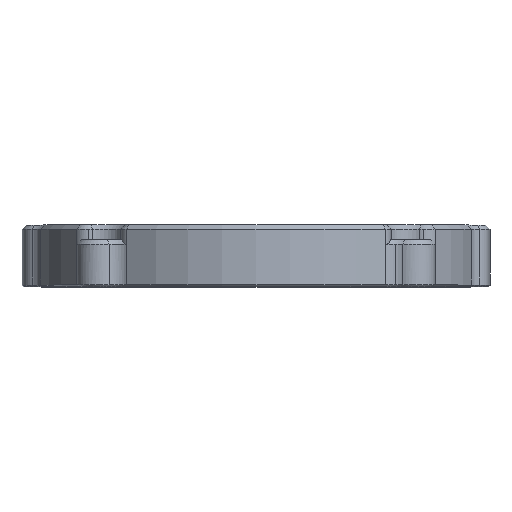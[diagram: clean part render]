
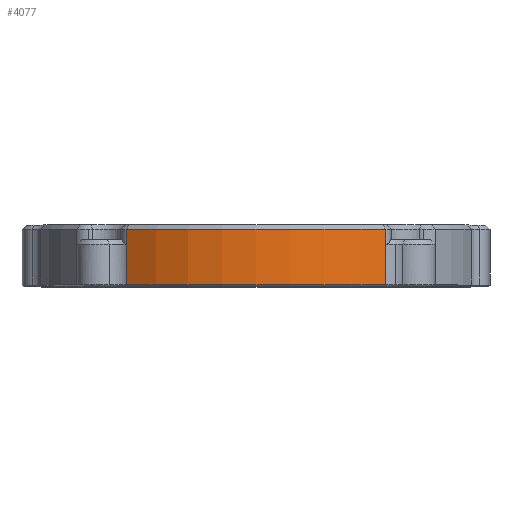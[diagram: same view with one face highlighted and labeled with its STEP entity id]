
A CAD part, top view. The second image highlights one B-rep face of the part: STEP entity #4077.
In plain terms, the highlighted cylindrical face has radius 25 mm (diameter 50 mm), a partial arc.
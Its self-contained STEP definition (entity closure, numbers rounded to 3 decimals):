
#33 = AXIS2_PLACEMENT_3D ( 'NONE', #3022, #5631, #2067 ) ;
#52 = CARTESIAN_POINT ( 'NONE',  ( -14.643, -1.3, 20.263 ) ) ;
#77 = DIRECTION ( 'NONE',  ( 0., 1., 0. ) ) ;
#135 = DIRECTION ( 'NONE',  ( 0., 0., -1. ) ) ;
#232 = LINE ( 'NONE', #2342, #1018 ) ;
#917 = CIRCLE ( 'NONE', #33, 25. ) ;
#1001 = ORIENTED_EDGE ( 'NONE', *, *, #3398, .T. ) ;
#1013 = DIRECTION ( 'NONE',  ( 0., -1., 0. ) ) ;
#1018 = VECTOR ( 'NONE', #4804, 1000. ) ;
#1070 = CARTESIAN_POINT ( 'NONE',  ( 14.643, 5., 20.263 ) ) ;
#1072 = CIRCLE ( 'NONE', #5558, 25. ) ;
#1110 = ORIENTED_EDGE ( 'NONE', *, *, #4836, .T. ) ;
#1149 = CARTESIAN_POINT ( 'NONE',  ( 14.643, 5.5, 20.263 ) ) ;
#1659 = EDGE_CURVE ( 'NONE', #3745, #2155, #917, .T. ) ;
#1701 = CARTESIAN_POINT ( 'NONE',  ( 0., 5.5, 0. ) ) ;
#1779 = CARTESIAN_POINT ( 'NONE',  ( 0., -1.3, 25. ) ) ;
#1861 = EDGE_CURVE ( 'NONE', #4394, #5480, #1072, .T. ) ;
#1891 = DIRECTION ( 'NONE',  ( 0., -1., 0. ) ) ;
#2067 = DIRECTION ( 'NONE',  ( 0., 0., -1. ) ) ;
#2072 = EDGE_CURVE ( 'NONE', #4546, #4394, #4277, .T. ) ;
#2155 = VERTEX_POINT ( 'NONE', #4851 ) ;
#2163 = CARTESIAN_POINT ( 'NONE',  ( 0., -1.3, 0. ) ) ;
#2217 = FACE_OUTER_BOUND ( 'NONE', #3354, .T. ) ;
#2294 = LINE ( 'NONE', #2795, #6773 ) ;
#2342 = CARTESIAN_POINT ( 'NONE',  ( -14.643, 5.5, 20.263 ) ) ;
#2407 = CIRCLE ( 'NONE', #5575, 25. ) ;
#2461 = EDGE_CURVE ( 'NONE', #2155, #4546, #3755, .T. ) ;
#2501 = CARTESIAN_POINT ( 'NONE',  ( 0., 5., 0. ) ) ;
#2687 = VECTOR ( 'NONE', #77, 1000. ) ;
#2795 = CARTESIAN_POINT ( 'NONE',  ( -14.643, 5.5, 20.263 ) ) ;
#3022 = CARTESIAN_POINT ( 'NONE',  ( 0., -1.3, 0. ) ) ;
#3026 = EDGE_CURVE ( 'NONE', #3711, #6457, #232, .T. ) ;
#3354 = EDGE_LOOP ( 'NONE', ( #5338, #1110, #3548, #6715, #3372, #4251, #1001 ) ) ;
#3372 = ORIENTED_EDGE ( 'NONE', *, *, #2072, .T. ) ;
#3398 = EDGE_CURVE ( 'NONE', #5480, #3711, #2294, .T. ) ;
#3548 = ORIENTED_EDGE ( 'NONE', *, *, #1659, .T. ) ;
#3711 = VERTEX_POINT ( 'NONE', #6508 ) ;
#3745 = VERTEX_POINT ( 'NONE', #1779 ) ;
#3755 = LINE ( 'NONE', #1149, #2687 ) ;
#3793 = CARTESIAN_POINT ( 'NONE',  ( 14.643, 3.8, 20.263 ) ) ;
#4076 = DIRECTION ( 'NONE',  ( 0., -1., 0. ) ) ;
#4077 = ADVANCED_FACE ( 'NONE', ( #2217 ), #4295, .T. ) ;
#4114 = DIRECTION ( 'NONE',  ( 0., 0., -1. ) ) ;
#4251 = ORIENTED_EDGE ( 'NONE', *, *, #1861, .T. ) ;
#4277 = LINE ( 'NONE', #3793, #6781 ) ;
#4295 = CYLINDRICAL_SURFACE ( 'NONE', #5676, 25. ) ;
#4394 = VERTEX_POINT ( 'NONE', #1070 ) ;
#4546 = VERTEX_POINT ( 'NONE', #5352 ) ;
#4804 = DIRECTION ( 'NONE',  ( 0., -1., 0. ) ) ;
#4836 = EDGE_CURVE ( 'NONE', #6457, #3745, #2407, .T. ) ;
#4851 = CARTESIAN_POINT ( 'NONE',  ( 14.643, -1.3, 20.263 ) ) ;
#5242 = DIRECTION ( 'NONE',  ( 0., 1., 0. ) ) ;
#5338 = ORIENTED_EDGE ( 'NONE', *, *, #3026, .T. ) ;
#5352 = CARTESIAN_POINT ( 'NONE',  ( 14.643, 3.3, 20.263 ) ) ;
#5480 = VERTEX_POINT ( 'NONE', #6471 ) ;
#5558 = AXIS2_PLACEMENT_3D ( 'NONE', #2501, #4076, #6171 ) ;
#5575 = AXIS2_PLACEMENT_3D ( 'NONE', #2163, #6251, #4114 ) ;
#5631 = DIRECTION ( 'NONE',  ( 0., 1., 0. ) ) ;
#5676 = AXIS2_PLACEMENT_3D ( 'NONE', #1701, #1013, #135 ) ;
#6171 = DIRECTION ( 'NONE',  ( 0., 0., 1. ) ) ;
#6251 = DIRECTION ( 'NONE',  ( 0., 1., 0. ) ) ;
#6457 = VERTEX_POINT ( 'NONE', #52 ) ;
#6471 = CARTESIAN_POINT ( 'NONE',  ( -14.643, 5., 20.263 ) ) ;
#6508 = CARTESIAN_POINT ( 'NONE',  ( -14.643, 3.3, 20.263 ) ) ;
#6715 = ORIENTED_EDGE ( 'NONE', *, *, #2461, .T. ) ;
#6773 = VECTOR ( 'NONE', #1891, 1000. ) ;
#6781 = VECTOR ( 'NONE', #5242, 1000. ) ;
